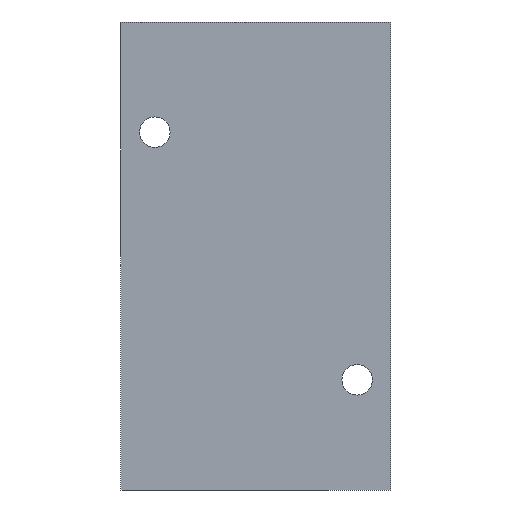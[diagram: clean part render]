
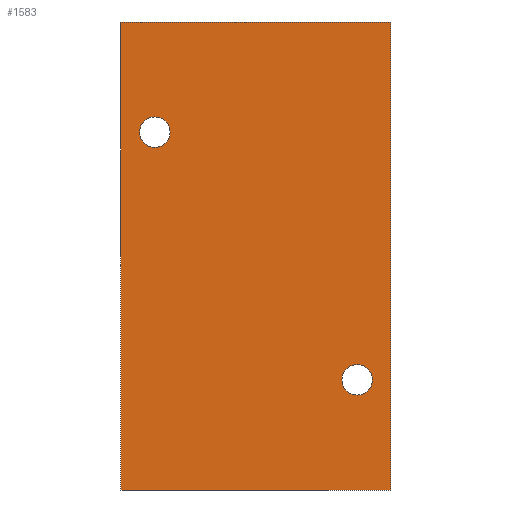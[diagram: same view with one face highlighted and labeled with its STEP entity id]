
A CAD part, front view. The second image highlights one B-rep face of the part: STEP entity #1583.
In plain terms, the highlighted planar face has unit normal (0, -1, 0).
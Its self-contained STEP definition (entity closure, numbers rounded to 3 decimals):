
#12 = VERTEX_POINT ( 'NONE', #1000 ) ;
#18 = CARTESIAN_POINT ( 'NONE',  ( -30., -25., -52. ) ) ;
#68 = EDGE_CURVE ( 'NONE', #1352, #826, #121, .T. ) ;
#71 = CIRCLE ( 'NONE', #310, 3.4 ) ;
#94 = VECTOR ( 'NONE', #319, 1000. ) ;
#111 = EDGE_CURVE ( 'NONE', #350, #1336, #123, .T. ) ;
#113 = FACE_BOUND ( 'NONE', #199, .T. ) ;
#121 = CIRCLE ( 'NONE', #172, 3.4 ) ;
#123 = LINE ( 'NONE', #133, #756 ) ;
#133 = CARTESIAN_POINT ( 'NONE',  ( 30., -25., 52. ) ) ;
#138 = CARTESIAN_POINT ( 'NONE',  ( -22.5, -25., 30.9 ) ) ;
#172 = AXIS2_PLACEMENT_3D ( 'NONE', #849, #773, #1152 ) ;
#174 = ORIENTED_EDGE ( 'NONE', *, *, #1486, .F. ) ;
#198 = AXIS2_PLACEMENT_3D ( 'NONE', #1553, #561, #942 ) ;
#199 = EDGE_LOOP ( 'NONE', ( #922, #665 ) ) ;
#205 = CARTESIAN_POINT ( 'NONE',  ( -30., -25., 52. ) ) ;
#255 = DIRECTION ( 'NONE',  ( 1., 0., 0. ) ) ;
#270 = CARTESIAN_POINT ( 'NONE',  ( 22.5, -25., -27.5 ) ) ;
#290 = CARTESIAN_POINT ( 'NONE',  ( -30., -25., -52. ) ) ;
#310 = AXIS2_PLACEMENT_3D ( 'NONE', #270, #1494, #1371 ) ;
#315 = VERTEX_POINT ( 'NONE', #290 ) ;
#319 = DIRECTION ( 'NONE',  ( 0., 0., -1. ) ) ;
#329 = ORIENTED_EDGE ( 'NONE', *, *, #897, .T. ) ;
#333 = AXIS2_PLACEMENT_3D ( 'NONE', #1138, #925, #424 ) ;
#350 = VERTEX_POINT ( 'NONE', #1270 ) ;
#361 = DIRECTION ( 'NONE',  ( 0., 0., -1. ) ) ;
#365 = ORIENTED_EDGE ( 'NONE', *, *, #68, .F. ) ;
#367 = CARTESIAN_POINT ( 'NONE',  ( 30., -25., -52. ) ) ;
#424 = DIRECTION ( 'NONE',  ( 0., 0., -1. ) ) ;
#461 = VECTOR ( 'NONE', #255, 1000. ) ;
#508 = CIRCLE ( 'NONE', #333, 3.4 ) ;
#509 = EDGE_CURVE ( 'NONE', #826, #1352, #1581, .T. ) ;
#536 = CARTESIAN_POINT ( 'NONE',  ( -30., -25., 52. ) ) ;
#561 = DIRECTION ( 'NONE',  ( 0., -1., 0. ) ) ;
#563 = DIRECTION ( 'NONE',  ( 1., 0., 0. ) ) ;
#574 = VERTEX_POINT ( 'NONE', #1181 ) ;
#643 = LINE ( 'NONE', #18, #461 ) ;
#657 = ORIENTED_EDGE ( 'NONE', *, *, #509, .F. ) ;
#665 = ORIENTED_EDGE ( 'NONE', *, *, #1471, .F. ) ;
#683 = DIRECTION ( 'NONE',  ( 0., 0., 1. ) ) ;
#702 = CARTESIAN_POINT ( 'NONE',  ( -30., -25., 52. ) ) ;
#736 = VERTEX_POINT ( 'NONE', #702 ) ;
#756 = VECTOR ( 'NONE', #361, 1000. ) ;
#773 = DIRECTION ( 'NONE',  ( 0., -1., 0. ) ) ;
#826 = VERTEX_POINT ( 'NONE', #1372 ) ;
#828 = DIRECTION ( 'NONE',  ( 0., 1., 0. ) ) ;
#849 = CARTESIAN_POINT ( 'NONE',  ( -22.5, -25., 27.5 ) ) ;
#897 = EDGE_CURVE ( 'NONE', #736, #315, #1411, .T. ) ;
#900 = CARTESIAN_POINT ( 'NONE',  ( -30., -25., 52. ) ) ;
#922 = ORIENTED_EDGE ( 'NONE', *, *, #1242, .F. ) ;
#925 = DIRECTION ( 'NONE',  ( 0., -1., 0. ) ) ;
#932 = FACE_BOUND ( 'NONE', #1334, .T. ) ;
#942 = DIRECTION ( 'NONE',  ( 0., 0., -1. ) ) ;
#993 = VECTOR ( 'NONE', #563, 1000. ) ;
#1000 = CARTESIAN_POINT ( 'NONE',  ( 22.5, -25., -30.9 ) ) ;
#1035 = EDGE_LOOP ( 'NONE', ( #1079, #1316, #174, #329 ) ) ;
#1079 = ORIENTED_EDGE ( 'NONE', *, *, #1286, .T. ) ;
#1138 = CARTESIAN_POINT ( 'NONE',  ( 22.5, -25., -27.5 ) ) ;
#1152 = DIRECTION ( 'NONE',  ( 0., 0., -1. ) ) ;
#1181 = CARTESIAN_POINT ( 'NONE',  ( 22.5, -25., -24.1 ) ) ;
#1182 = FACE_OUTER_BOUND ( 'NONE', #1035, .T. ) ;
#1242 = EDGE_CURVE ( 'NONE', #12, #574, #71, .T. ) ;
#1270 = CARTESIAN_POINT ( 'NONE',  ( 30., -25., 52. ) ) ;
#1271 = LINE ( 'NONE', #900, #993 ) ;
#1286 = EDGE_CURVE ( 'NONE', #315, #1336, #643, .T. ) ;
#1316 = ORIENTED_EDGE ( 'NONE', *, *, #111, .F. ) ;
#1334 = EDGE_LOOP ( 'NONE', ( #657, #365 ) ) ;
#1336 = VERTEX_POINT ( 'NONE', #367 ) ;
#1352 = VERTEX_POINT ( 'NONE', #138 ) ;
#1371 = DIRECTION ( 'NONE',  ( 0., 0., -1. ) ) ;
#1372 = CARTESIAN_POINT ( 'NONE',  ( -22.5, -25., 24.1 ) ) ;
#1411 = LINE ( 'NONE', #536, #94 ) ;
#1450 = PLANE ( 'NONE',  #1588 ) ;
#1471 = EDGE_CURVE ( 'NONE', #574, #12, #508, .T. ) ;
#1486 = EDGE_CURVE ( 'NONE', #736, #350, #1271, .T. ) ;
#1494 = DIRECTION ( 'NONE',  ( 0., -1., 0. ) ) ;
#1553 = CARTESIAN_POINT ( 'NONE',  ( -22.5, -25., 27.5 ) ) ;
#1581 = CIRCLE ( 'NONE', #198, 3.4 ) ;
#1583 = ADVANCED_FACE ( 'NONE', ( #113, #932, #1182 ), #1450, .F. ) ;
#1588 = AXIS2_PLACEMENT_3D ( 'NONE', #205, #828, #683 ) ;
